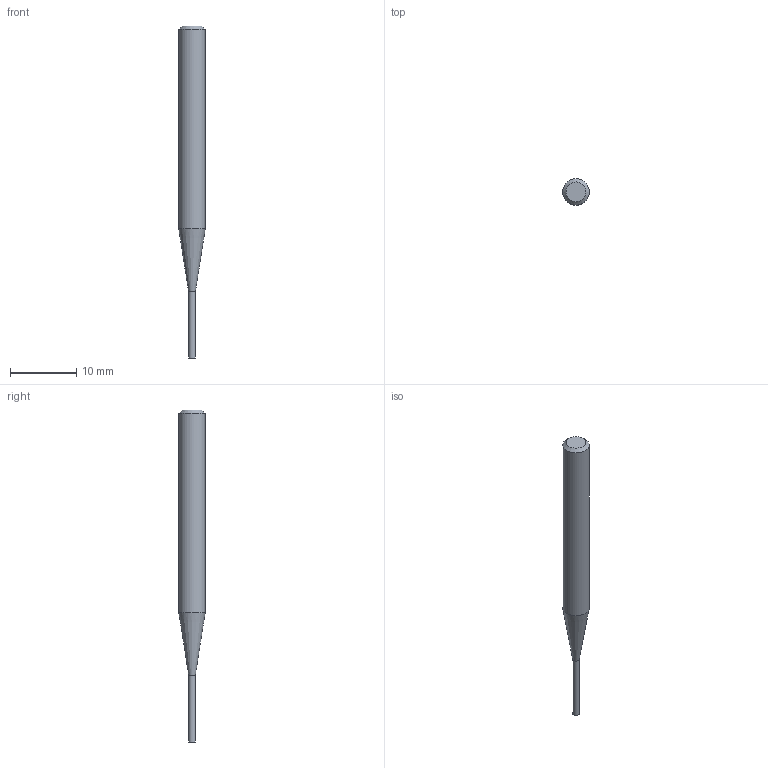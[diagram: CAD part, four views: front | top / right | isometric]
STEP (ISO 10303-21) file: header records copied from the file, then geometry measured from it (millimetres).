
FILE_DESCRIPTION((''),'2;1');
FILE_NAME('C:\Users\nsx150\Desktop\RSE230_20210427\01-00644-01002 RSE230 D1X10.step','2021-05-07T14:53:13',(''),(''),'STEP Write','Mastercam 2021 ... CNC Software, Inc.','');
FILE_SCHEMA(('AUTOMOTIVE_DESIGN'));
Length unit declared in the file: millimetre
Products named in the file (1): None
Bounding box: 4 x 4 x 50 mm (x, y, z)
Volume: 442.1 mm3; surface area: 501.3 mm2
Topology: 2 solids, 2 shells, 8 faces, 10 edges, 6 vertices
Faces by surface type: plane 4, cylinder 2, cone 2
Full cylindrical faces by diameter (mm): 1 x1, 4 x1
Entity records: 190 total; most frequent: DIRECTION 32, CARTESIAN_POINT 22, AXIS2_PLACEMENT_3D 16, ORIENTED_EDGE 12, EDGE_LOOP 12, STYLED_ITEM 11, ADVANCED_FACE 8, VERTEX_POINT 6
